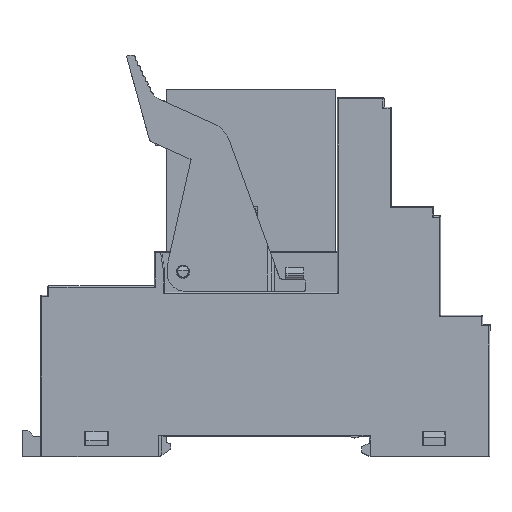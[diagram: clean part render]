
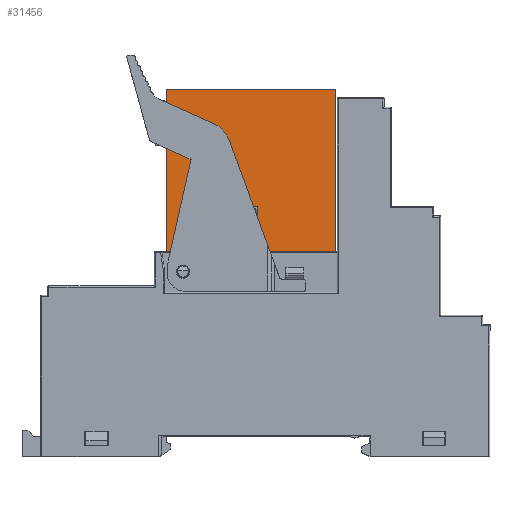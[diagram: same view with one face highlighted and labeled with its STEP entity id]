
A CAD part, top view. The second image highlights one B-rep face of the part: STEP entity #31456.
In plain terms, the highlighted planar face has unit normal (0, 0, 1).
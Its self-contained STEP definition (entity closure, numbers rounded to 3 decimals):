
#566 = CARTESIAN_POINT ( 'NONE',  ( 11.224, 12.599, 6.3 ) ) ;
#568 = ORIENTED_EDGE ( 'NONE', *, *, #23454, .T. ) ;
#1163 = EDGE_CURVE ( 'NONE', #8312, #34691, #51533, .T. ) ;
#1222 = VECTOR ( 'NONE', #35854, 1000. ) ;
#2739 = LINE ( 'NONE', #48556, #37342 ) ;
#3029 = LINE ( 'NONE', #57739, #36223 ) ;
#3582 = VECTOR ( 'NONE', #5176, 1000. ) ;
#3627 = LINE ( 'NONE', #566, #26208 ) ;
#3719 = DIRECTION ( 'NONE',  ( 1., 0., 0. ) ) ;
#3794 = VERTEX_POINT ( 'NONE', #34737 ) ;
#4017 = LINE ( 'NONE', #21516, #26590 ) ;
#5155 = DIRECTION ( 'NONE',  ( 1., 0., 0. ) ) ;
#5176 = DIRECTION ( 'NONE',  ( 0., -1., 0. ) ) ;
#5744 = CARTESIAN_POINT ( 'NONE',  ( -17.576, 36.399, 6.3 ) ) ;
#6723 = FACE_BOUND ( 'NONE', #52639, .T. ) ;
#6875 = AXIS2_PLACEMENT_3D ( 'NONE', #44959, #49464, #22457 ) ;
#7573 = ORIENTED_EDGE ( 'NONE', *, *, #44450, .F. ) ;
#7669 = ORIENTED_EDGE ( 'NONE', *, *, #49668, .F. ) ;
#8312 = VERTEX_POINT ( 'NONE', #31556 ) ;
#9606 = ORIENTED_EDGE ( 'NONE', *, *, #29742, .F. ) ;
#9744 = VERTEX_POINT ( 'NONE', #18373 ) ;
#10299 = CARTESIAN_POINT ( 'NONE',  ( -6.176, 14.399, 6.3 ) ) ;
#11873 = CARTESIAN_POINT ( 'NONE',  ( -6.076, 12.599, 6.3 ) ) ;
#12596 = EDGE_CURVE ( 'NONE', #24385, #25069, #2739, .T. ) ;
#16164 = LINE ( 'NONE', #30165, #28145 ) ;
#17543 = DIRECTION ( 'NONE',  ( -1., 0., 0. ) ) ;
#17637 = LINE ( 'NONE', #34455, #50753 ) ;
#18373 = CARTESIAN_POINT ( 'NONE',  ( -1.976, 16.599, 6.3 ) ) ;
#18729 = FACE_BOUND ( 'NONE', #45242, .T. ) ;
#19769 = CARTESIAN_POINT ( 'NONE',  ( 11.224, 8.899, 6.3 ) ) ;
#20150 = VECTOR ( 'NONE', #17543, 1000. ) ;
#21516 = CARTESIAN_POINT ( 'NONE',  ( 11.224, 36.399, 6.3 ) ) ;
#22457 = DIRECTION ( 'NONE',  ( 0., -1., 0. ) ) ;
#22799 = ORIENTED_EDGE ( 'NONE', *, *, #33928, .T. ) ;
#23454 = EDGE_CURVE ( 'NONE', #55494, #50039, #16164, .T. ) ;
#23626 = EDGE_CURVE ( 'NONE', #3794, #50039, #33079, .T. ) ;
#24385 = VERTEX_POINT ( 'NONE', #30019 ) ;
#25069 = VERTEX_POINT ( 'NONE', #5744 ) ;
#26024 = DIRECTION ( 'NONE',  ( 1., 0., 0. ) ) ;
#26208 = VECTOR ( 'NONE', #5155, 1000. ) ;
#26451 = VERTEX_POINT ( 'NONE', #19769 ) ;
#26533 = LINE ( 'NONE', #39987, #50498 ) ;
#26590 = VECTOR ( 'NONE', #26024, 1000. ) ;
#26601 = CARTESIAN_POINT ( 'NONE',  ( 11.224, 8.899, 6.3 ) ) ;
#27824 = VECTOR ( 'NONE', #53152, 1000. ) ;
#28145 = VECTOR ( 'NONE', #34772, 1000. ) ;
#29742 = EDGE_CURVE ( 'NONE', #25069, #50890, #4017, .T. ) ;
#30019 = CARTESIAN_POINT ( 'NONE',  ( -17.576, 8.899, 6.3 ) ) ;
#30165 = CARTESIAN_POINT ( 'NONE',  ( -2.226, 14.499, 6.3 ) ) ;
#30317 = EDGE_CURVE ( 'NONE', #50890, #26451, #26533, .T. ) ;
#30406 = CARTESIAN_POINT ( 'NONE',  ( -2.226, 12.099, 6.3 ) ) ;
#31267 = CARTESIAN_POINT ( 'NONE',  ( -1.976, 16.599, 6.3 ) ) ;
#31362 = DIRECTION ( 'NONE',  ( 1., 0., 0. ) ) ;
#31424 = EDGE_CURVE ( 'NONE', #26451, #24385, #44172, .T. ) ;
#31456 = ADVANCED_FACE ( 'NONE', ( #42707, #18729, #6723 ), #40428, .T. ) ;
#31556 = CARTESIAN_POINT ( 'NONE',  ( -6.176, 16.599, 6.3 ) ) ;
#31688 = VECTOR ( 'NONE', #31362, 1000. ) ;
#33079 = LINE ( 'NONE', #58391, #31688 ) ;
#33928 = EDGE_CURVE ( 'NONE', #58352, #55494, #3627, .T. ) ;
#34455 = CARTESIAN_POINT ( 'NONE',  ( -1.976, 14.399, 6.3 ) ) ;
#34684 = CARTESIAN_POINT ( 'NONE',  ( 11.224, 36.399, 6.3 ) ) ;
#34691 = VERTEX_POINT ( 'NONE', #45187 ) ;
#34737 = CARTESIAN_POINT ( 'NONE',  ( -6.076, 12.099, 6.3 ) ) ;
#34772 = DIRECTION ( 'NONE',  ( 0., -1., 0. ) ) ;
#35814 = ORIENTED_EDGE ( 'NONE', *, *, #23626, .F. ) ;
#35854 = DIRECTION ( 'NONE',  ( -1., 0., 0. ) ) ;
#36179 = ORIENTED_EDGE ( 'NONE', *, *, #31424, .F. ) ;
#36223 = VECTOR ( 'NONE', #3719, 1000. ) ;
#36717 = ORIENTED_EDGE ( 'NONE', *, *, #12596, .F. ) ;
#37342 = VECTOR ( 'NONE', #57616, 1000. ) ;
#39884 = LINE ( 'NONE', #48607, #27824 ) ;
#39987 = CARTESIAN_POINT ( 'NONE',  ( 11.224, 8.899, 6.3 ) ) ;
#40428 = PLANE ( 'NONE',  #6875 ) ;
#42707 = FACE_OUTER_BOUND ( 'NONE', #52539, .T. ) ;
#44172 = LINE ( 'NONE', #26601, #20150 ) ;
#44450 = EDGE_CURVE ( 'NONE', #58352, #3794, #39884, .T. ) ;
#44959 = CARTESIAN_POINT ( 'NONE',  ( 11.224, 22.399, 6.3 ) ) ;
#45187 = CARTESIAN_POINT ( 'NONE',  ( -6.176, 14.399, 6.3 ) ) ;
#45242 = EDGE_LOOP ( 'NONE', ( #35814, #7573, #22799, #568 ) ) ;
#47834 = LINE ( 'NONE', #31267, #1222 ) ;
#48556 = CARTESIAN_POINT ( 'NONE',  ( -17.576, 8.899, 6.3 ) ) ;
#48607 = CARTESIAN_POINT ( 'NONE',  ( -6.076, 14.499, 6.3 ) ) ;
#49043 = DIRECTION ( 'NONE',  ( 0., -1., 0. ) ) ;
#49464 = DIRECTION ( 'NONE',  ( 0., 0., 1. ) ) ;
#49507 = ORIENTED_EDGE ( 'NONE', *, *, #1163, .F. ) ;
#49668 = EDGE_CURVE ( 'NONE', #9744, #8312, #47834, .T. ) ;
#50039 = VERTEX_POINT ( 'NONE', #30406 ) ;
#50123 = ORIENTED_EDGE ( 'NONE', *, *, #51286, .F. ) ;
#50498 = VECTOR ( 'NONE', #49043, 1000. ) ;
#50753 = VECTOR ( 'NONE', #52575, 1000. ) ;
#50890 = VERTEX_POINT ( 'NONE', #34684 ) ;
#51286 = EDGE_CURVE ( 'NONE', #55510, #9744, #17637, .T. ) ;
#51533 = LINE ( 'NONE', #10299, #3582 ) ;
#52120 = CARTESIAN_POINT ( 'NONE',  ( -2.226, 12.599, 6.3 ) ) ;
#52539 = EDGE_LOOP ( 'NONE', ( #55995, #9606, #36717, #36179 ) ) ;
#52575 = DIRECTION ( 'NONE',  ( 0., 1., 0. ) ) ;
#52639 = EDGE_LOOP ( 'NONE', ( #57635, #49507, #7669, #50123 ) ) ;
#53152 = DIRECTION ( 'NONE',  ( 0., -1., 0. ) ) ;
#55494 = VERTEX_POINT ( 'NONE', #52120 ) ;
#55510 = VERTEX_POINT ( 'NONE', #56861 ) ;
#55995 = ORIENTED_EDGE ( 'NONE', *, *, #30317, .F. ) ;
#56861 = CARTESIAN_POINT ( 'NONE',  ( -1.976, 14.399, 6.3 ) ) ;
#57616 = DIRECTION ( 'NONE',  ( 0., 1., 0. ) ) ;
#57635 = ORIENTED_EDGE ( 'NONE', *, *, #58161, .F. ) ;
#57739 = CARTESIAN_POINT ( 'NONE',  ( -1.976, 14.399, 6.3 ) ) ;
#58161 = EDGE_CURVE ( 'NONE', #34691, #55510, #3029, .T. ) ;
#58352 = VERTEX_POINT ( 'NONE', #11873 ) ;
#58391 = CARTESIAN_POINT ( 'NONE',  ( -6.076, 12.099, 6.3 ) ) ;
